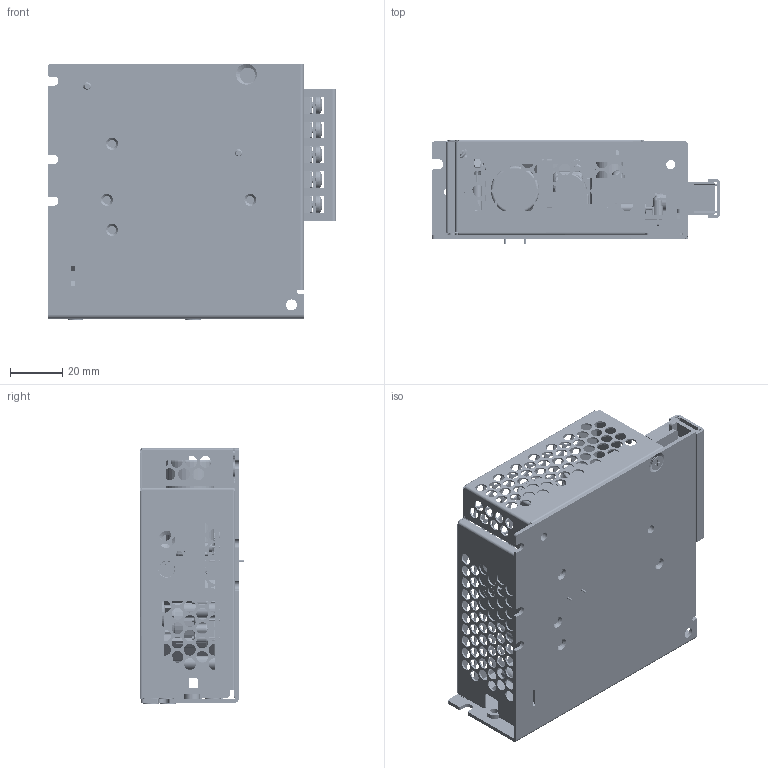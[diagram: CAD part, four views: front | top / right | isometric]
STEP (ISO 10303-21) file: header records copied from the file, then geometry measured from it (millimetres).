
FILE_DESCRIPTION((''),'2;1');
FILE_NAME('NEW_50W_ASM','2014-08-11T',('LEON.YEH'),(''),'PRO/ENGINEER BY PARAMETRIC TECHNOLOGY CORPORATION, 2010280','PRO/ENGINEER BY PARAMETRIC TECHNOLOGY CORPORATION, 2010280','');
FILE_SCHEMA(('CONFIG_CONTROL_DESIGN'));
Products named in the file (44): 15V_50W_PWB; BT24-KO31-07-M201-20120103_AF0; BT25U101; BT25U101_AF0; BT25U101_AF1; BT25U101_AF2; T24P101-20110103; T24P101-20110103_AF0; T24P101-20110103_AF1; T24P101-20110103_AF2; BT24-KO31-07-M101-20120103_AF0; ASSEM1_ASM; T24-KO31-07_ASM; LED_HOLDER; 3103000500_FLAT_L5_1; HSK; HSK_PIN1; HSK_PIN2; HSK_ASM_ASM; 242017601306_Q1; 3105325100-L6; 3105320100-L8; 3110150400__W___ANY; DIODE_RESET__W___ANY; 200111620071_BD1; 2875187900_FL1; 0910800216_NTC1; F1; VR132; NEW_COVER; 330_CHASSIS_15V; STUD_6_32_L7_; 00; CHASSIS_ASM_15V_ASM; 50W_C1; CY1; C7; INSULATOR; CORE-RM10_1; 3172980001_17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
Assembly tree (71 placements, depth 4):
  NEW_50W_ASM
    15V_50W_PWB
    T24-KO31-07_ASM
      ASSEM1_ASM
        BT24-KO31-07-M201-20120103_AF0
        BT25U101  x9
        BT25U101_AF0
        BT25U101_AF1
        BT25U101_AF2
        T24P101-20110103  x9
        T24P101-20110103_AF0
        T24P101-20110103_AF1
        T24P101-20110103_AF2
        BT24-KO31-07-M101-20120103_AF0
    LED_HOLDER
    3103000500_FLAT_L5_1  x2
    HSK_ASM_ASM
      HSK
      HSK_PIN1
      HSK_PIN2
    242017601306_Q1  x2
    3105325100-L6  x2
    3105320100-L8  x2
    3110150400__W___ANY  x2
    DIODE_RESET__W___ANY
    200111620071_BD1
    2875187900_FL1
    0910800216_NTC1
    F1
    VR132
    NEW_COVER
    CHASSIS_ASM_15V_ASM
      330_CHASSIS_15V
      STUD_6_32_L7_  x2
      00  x2
    50W_C1
    CY1  x5
    C7
    INSULATOR
    ASSY-RM10-082312_ASM
      ASSY-RM10-1205_ASM_6_ASM
        CORE-RM10_1  x2
        3172980001_17
        3132023800_1
Bounding box: 110.3 x 40.15 x 98 mm (x, y, z)
Volume: 89939 mm3; surface area: 128595.8 mm2
Topology: 72 solids, 72 shells, 6348 faces, 16559 edges, 10405 vertices
Faces by surface type: plane 2936, cylinder 2311, torus 752, bspline 173, cone 104, sphere 52, revolution 20
Entity records: 136180 total; most frequent: CARTESIAN_POINT 37562, DIRECTION 21007, ORIENTED_EDGE 20024, EDGE_CURVE 10012, AXIS2_PLACEMENT_3D 8207, VERTEX_POINT 6148, EDGE_LOOP 4876, VECTOR 4589
